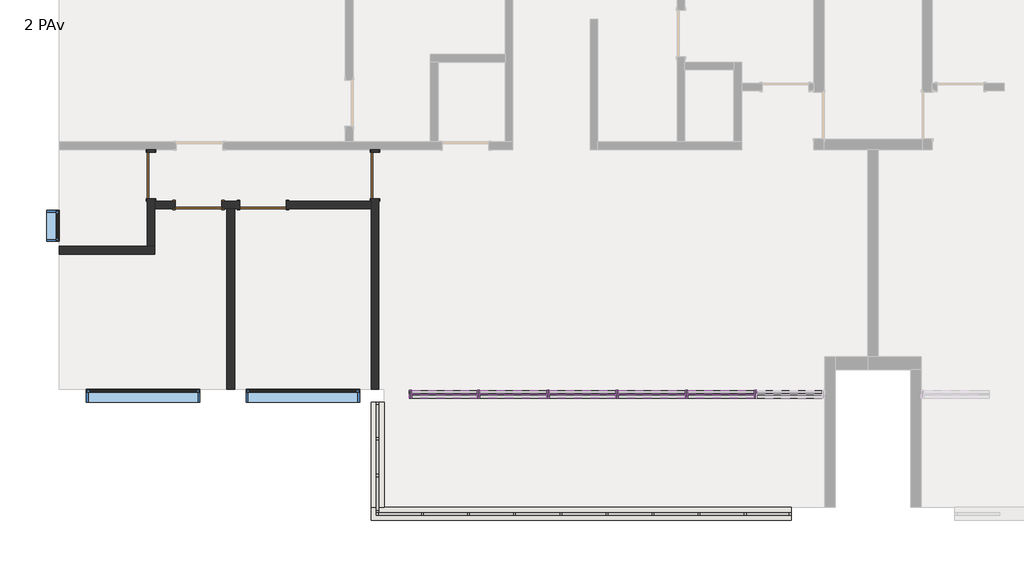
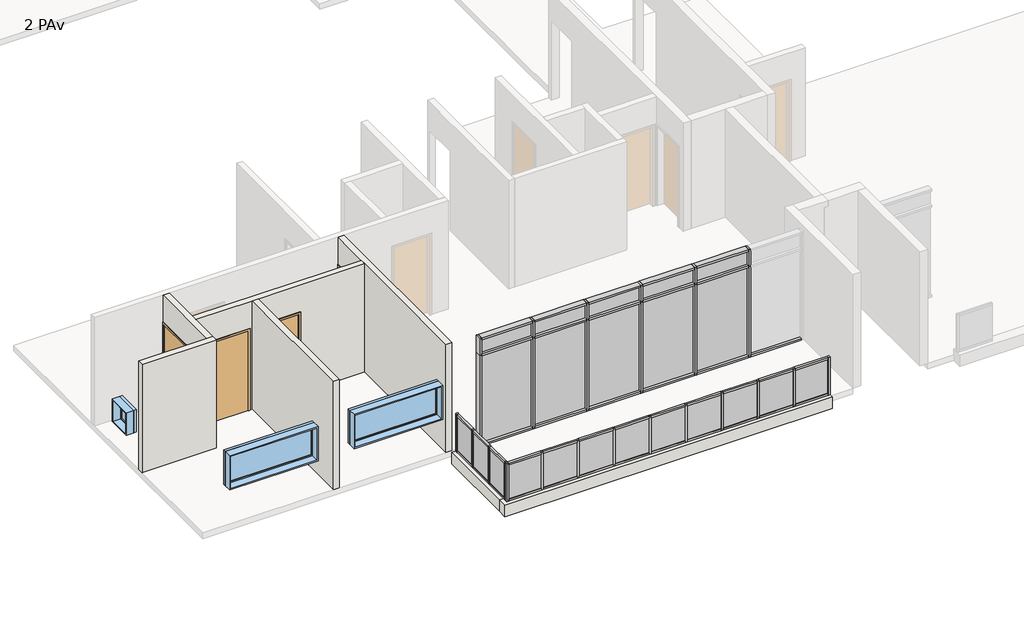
# One storey, part 1 of 6: 66 members, 22 plates, 7 walls, 4 doors, 3 windows.
"""IFC4 building model written with IfcOpenShell, lengths in millimetres."""

from ifc_helpers import new_model, si_unit, frame, origin, place, context, project, spatial, polyline, outline, extrude, faceted_brep, transform, mapped, element, save
from components import door_90_x_210_ee935524, door_90_x_210_565370b3, montante_retangular_50_mm_quadrado_84e40a56, montante_retangular_50_mm_quadrado_3d152aff, montante_retangular_50_mm_quadrado_a01005a4, montante_retangular_50_mm_quadrado_ddd80bd7, montante_retangular_50_mm_quadrado_4acded50, montante_retangular_50_mm_quadrado_237d7072, montante_retangular_50_x_150_mm_6217edde, montante_retangular_50_x_150_mm_a22249d7, montante_retangular_50_x_150_mm_6225e4e3, montante_retangular_50_x_150_mm_567eccab, montante_retangular_50_x_150_mm_1ca2bba2, montante_retangular_50_x_150_mm_6abf4531, montante_retangular_50_x_150_mm_0a8c3443, montante_retangular_50_x_150_mm_662c37b1, painel_do_sistema_0196877a, painel_do_sistema_2aa81470, painel_do_sistema_57ceaf50, painel_do_sistema_ab0ed719, painel_do_sistema_1ecb5f42, painel_do_sistema_49db1829, painel_do_sistema_5ea5287b, painel_do_sistema_7730abee, window_0610_x_0610_mm_da1d4716, window_220_x_90_cea65aae

model = new_model("IFC4")

# Units and contexts
model_context = context("Model", 3, world=origin())
ifc_project = project(units=[si_unit("LENGTHUNIT", "METRE", prefix="MILLI")], contexts=[model_context])

# Site, building, storey
site = spatial("IfcSite", under=ifc_project)
building = spatial("IfcBuilding", under=site)
storey = spatial("IfcBuildingStorey", under=building, Name="2 PAv", Elevation=6000.0)

# Doors
placement = place(None, origin())
door_90_x_210_shape = door_90_x_210_ee935524(model_context)
element("IfcDoor", 1, ObjectType="M_Descarga simples : 90 x 210", at=placement, inside=storey, context=model_context, shape_type="MappedRepresentation", body=[
    mapped(door_90_x_210_shape, transform((-10691.2265742, -8286.3385375, 6000.0), x_axis=(0.0, 1.0, 0.0), y_axis=(-1.0, 0.0, 0.0), z_axis=(0.0, 0.0, 1.0))),
])
element("IfcDoor", 2, ObjectType="M_Descarga simples : 90 x 210", at=placement, inside=storey, context=model_context, shape_type="MappedRepresentation", body=[
    mapped(door_90_x_210_shape, transform((-15041.2265742, -8286.3385375, 6000.0), x_axis=(0.0, 1.0, 0.0), y_axis=(-1.0, 0.0, 0.0), z_axis=(0.0, 0.0, 1.0))),
])
element("IfcDoor", 3, ObjectType="M_Descarga simples : 90 x 210", at=placement, inside=storey, context=model_context, shape_type="MappedRepresentation", body=[
    mapped(door_90_x_210_shape, transform((-12866.2265742, -8861.3385375, 6000.0), x_axis=(-1.0, 0.0, 0.0), y_axis=(0.0, -1.0, 0.0), z_axis=(0.0, 0.0, 1.0))),
])
door_90_x_210_2_shape = door_90_x_210_565370b3(model_context)
element("IfcDoor", 4, ObjectType="M_Descarga simples : 90 x 210", at=placement, inside=storey, context=model_context, shape_type="MappedRepresentation", body=[
    mapped(door_90_x_210_2_shape, transform((-14116.2265742, -8861.3385375, 6000.0), x_axis=(1.0, 0.0, 0.0), y_axis=(0.0, 1.0, 0.0), z_axis=(0.0, 0.0, 1.0))),
])

# Members
montante_retangular_50_mm_quadrado_shape = montante_retangular_50_mm_quadrado_84e40a56(model_context)
element("IfcMember", 5, ObjectType="Montante retangular : 50 mm Quadrado", at=placement, inside=storey, context=model_context, shape_type="MappedRepresentation", body=[
    mapped(montante_retangular_50_mm_quadrado_shape, transform((-3506.2265742, -14856.3385375, 6150.0), x_axis=(-1.0, 0.0, 0.0), y_axis=(0.0, 1.0, 0.0), z_axis=(0.0, 0.0, -1.0))),
])
element("IfcMember", 6, ObjectType="Montante retangular : 50 mm Quadrado", at=placement, inside=storey, context=model_context, shape_type="MappedRepresentation", body=[
    mapped(montante_retangular_50_mm_quadrado_shape, transform((-4401.2265742, -14856.3385375, 6150.0), x_axis=(-1.0, 0.0, 0.0), y_axis=(0.0, 1.0, 0.0), z_axis=(0.0, 0.0, -1.0))),
])
element("IfcMember", 7, ObjectType="Montante retangular : 50 mm Quadrado", at=placement, inside=storey, context=model_context, shape_type="MappedRepresentation", body=[
    mapped(montante_retangular_50_mm_quadrado_shape, transform((-5296.2265742, -14856.3385375, 6150.0), x_axis=(-1.0, 0.0, 0.0), y_axis=(0.0, 1.0, 0.0), z_axis=(0.0, 0.0, -1.0))),
])
element("IfcMember", 8, ObjectType="Montante retangular : 50 mm Quadrado", at=placement, inside=storey, context=model_context, shape_type="MappedRepresentation", body=[
    mapped(montante_retangular_50_mm_quadrado_shape, transform((-6191.2265742, -14856.3385375, 6150.0), x_axis=(-1.0, 0.0, 0.0), y_axis=(0.0, 1.0, 0.0), z_axis=(0.0, 0.0, -1.0))),
])
element("IfcMember", 9, ObjectType="Montante retangular : 50 mm Quadrado", at=placement, inside=storey, context=model_context, shape_type="MappedRepresentation", body=[
    mapped(montante_retangular_50_mm_quadrado_shape, transform((-7086.2265742, -14856.3385375, 6150.0), x_axis=(-1.0, 0.0, 0.0), y_axis=(0.0, 1.0, 0.0), z_axis=(0.0, 0.0, -1.0))),
])
element("IfcMember", 10, ObjectType="Montante retangular : 50 mm Quadrado", at=placement, inside=storey, context=model_context, shape_type="MappedRepresentation", body=[
    mapped(montante_retangular_50_mm_quadrado_shape, transform((-7981.2265742, -14856.3385375, 6150.0), x_axis=(-1.0, 0.0, 0.0), y_axis=(0.0, 1.0, 0.0), z_axis=(0.0, 0.0, -1.0))),
])
element("IfcMember", 11, ObjectType="Montante retangular : 50 mm Quadrado", at=placement, inside=storey, context=model_context, shape_type="MappedRepresentation", body=[
    mapped(montante_retangular_50_mm_quadrado_shape, transform((-8876.2265742, -14856.3385375, 6150.0), x_axis=(-1.0, 0.0, 0.0), y_axis=(0.0, 1.0, 0.0), z_axis=(0.0, 0.0, -1.0))),
])
element("IfcMember", 12, ObjectType="Montante retangular : 50 mm Quadrado", at=placement, inside=storey, context=model_context, shape_type="MappedRepresentation", body=[
    mapped(montante_retangular_50_mm_quadrado_shape, transform((-9771.2265742, -14856.3385375, 6150.0), x_axis=(-1.0, 0.0, 0.0), y_axis=(0.0, 1.0, 0.0), z_axis=(0.0, 0.0, -1.0))),
])
element("IfcMember", 13, ObjectType="Montante retangular : 50 mm Quadrado", at=placement, inside=storey, context=model_context, shape_type="MappedRepresentation", body=[
    mapped(montante_retangular_50_mm_quadrado_shape, transform((-10641.2265742, -14116.3385375, 6150.0), x_axis=(0.0, 1.0, 0.0), y_axis=(1.0, 0.0, 0.0), z_axis=(0.0, 0.0, -1.0))),
])
element("IfcMember", 14, ObjectType="Montante retangular : 50 mm Quadrado", at=placement, inside=storey, context=model_context, shape_type="MappedRepresentation", body=[
    mapped(montante_retangular_50_mm_quadrado_shape, transform((-10641.2265742, -13401.3385375, 6150.0), x_axis=(0.0, 1.0, 0.0), y_axis=(1.0, 0.0, 0.0), z_axis=(0.0, 0.0, -1.0))),
])
montante_retangular_50_mm_quadrado_2_shape = montante_retangular_50_mm_quadrado_3d152aff(model_context)
element("IfcMember", 15, ObjectType="Montante retangular : 50 mm Quadrado", at=placement, inside=storey, context=model_context, shape_type="MappedRepresentation", body=[
    mapped(montante_retangular_50_mm_quadrado_2_shape, transform((-10666.2265742, -14856.3385375, 6150.0), x_axis=(-1.0, 0.0, 0.0), y_axis=(0.0, 1.0, 0.0), z_axis=(0.0, 0.0, -1.0))),
])
element("IfcMember", 16, ObjectType="Montante retangular : 50 mm Quadrado", at=placement, inside=storey, context=model_context, shape_type="MappedRepresentation", body=[
    mapped(montante_retangular_50_mm_quadrado_2_shape, transform((-10641.2265742, -12686.3385375, 6150.0), x_axis=(0.0, 1.0, 0.0), y_axis=(1.0, 0.0, 0.0), z_axis=(0.0, 0.0, -1.0))),
])
element("IfcMember", 17, ObjectType="Montante retangular : 50 mm Quadrado", at=placement, inside=storey, context=model_context, shape_type="MappedRepresentation", body=[
    mapped(montante_retangular_50_mm_quadrado_2_shape, transform((-2611.2265742, -14856.3385375, 7150.0), x_axis=(1.0, 0.0, 0.0), y_axis=(0.0, 1.0, 0.0), z_axis=(0.0, 0.0, 1.0))),
])
element("IfcMember", 18, ObjectType="Montante retangular : 50 mm Quadrado", at=placement, inside=storey, context=model_context, shape_type="MappedRepresentation", body=[
    mapped(montante_retangular_50_mm_quadrado_2_shape, transform((-10641.2265742, -14831.3385375, 7150.0), x_axis=(0.0, -1.0, 0.0), y_axis=(1.0, 0.0, 0.0), z_axis=(0.0, 0.0, 1.0))),
])
montante_retangular_50_mm_quadrado_3_shape = montante_retangular_50_mm_quadrado_a01005a4(model_context)
element("IfcMember", 19, ObjectType="Montante retangular : 50 mm Quadrado", at=placement, inside=storey, context=model_context, shape_type="MappedRepresentation", body=[
    mapped(montante_retangular_50_mm_quadrado_3_shape, transform((-10641.2265742, -12736.3385375, 7150.0), x_axis=(0.0, 0.0, 1.0), y_axis=(1.0, 0.0, 0.0), z_axis=(0.0, 1.0, 0.0))),
])
element("IfcMember", 20, ObjectType="Montante retangular : 50 mm Quadrado", at=placement, inside=storey, context=model_context, shape_type="MappedRepresentation", body=[
    mapped(montante_retangular_50_mm_quadrado_3_shape, transform((-10641.2265742, -14141.3385375, 7150.0), x_axis=(0.0, 0.0, 1.0), y_axis=(1.0, 0.0, 0.0), z_axis=(0.0, 1.0, 0.0))),
])
montante_retangular_50_mm_quadrado_4_shape = montante_retangular_50_mm_quadrado_ddd80bd7(model_context)
element("IfcMember", 21, ObjectType="Montante retangular : 50 mm Quadrado", at=placement, inside=storey, context=model_context, shape_type="MappedRepresentation", body=[
    mapped(montante_retangular_50_mm_quadrado_4_shape, transform((-10641.2265742, -13426.3385375, 7150.0), x_axis=(0.0, 0.0, 1.0), y_axis=(1.0, 0.0, 0.0), z_axis=(0.0, 1.0, 0.0))),
])
element("IfcMember", 22, ObjectType="Montante retangular : 50 mm Quadrado", at=placement, inside=storey, context=model_context, shape_type="MappedRepresentation", body=[
    mapped(montante_retangular_50_mm_quadrado_3_shape, transform((-10641.2265742, -14781.3385375, 6150.0), x_axis=(0.0, 0.0, -1.0), y_axis=(1.0, 0.0, 0.0), z_axis=(0.0, -1.0, 0.0))),
])
element("IfcMember", 23, ObjectType="Montante retangular : 50 mm Quadrado", at=placement, inside=storey, context=model_context, shape_type="MappedRepresentation", body=[
    mapped(montante_retangular_50_mm_quadrado_3_shape, transform((-10641.2265742, -13376.3385375, 6150.0), x_axis=(0.0, 0.0, -1.0), y_axis=(1.0, 0.0, 0.0), z_axis=(0.0, -1.0, 0.0))),
])
element("IfcMember", 24, ObjectType="Montante retangular : 50 mm Quadrado", at=placement, inside=storey, context=model_context, shape_type="MappedRepresentation", body=[
    mapped(montante_retangular_50_mm_quadrado_4_shape, transform((-10641.2265742, -14091.3385375, 6150.0), x_axis=(0.0, 0.0, -1.0), y_axis=(1.0, 0.0, 0.0), z_axis=(0.0, -1.0, 0.0))),
])
montante_retangular_50_mm_quadrado_5_shape = montante_retangular_50_mm_quadrado_4acded50(model_context)
element("IfcMember", 25, ObjectType="Montante retangular : 50 mm Quadrado", at=placement, inside=storey, context=model_context, shape_type="MappedRepresentation", body=[
    mapped(montante_retangular_50_mm_quadrado_5_shape, transform((-10616.2265742, -14856.3385375, 7150.0), x_axis=(0.0, 0.0, 1.0), y_axis=(0.0, 1.0, 0.0), z_axis=(-1.0, 0.0, 0.0))),
])
element("IfcMember", 26, ObjectType="Montante retangular : 50 mm Quadrado", at=placement, inside=storey, context=model_context, shape_type="MappedRepresentation", body=[
    mapped(montante_retangular_50_mm_quadrado_5_shape, transform((-3481.2265742, -14856.3385375, 7150.0), x_axis=(0.0, 0.0, 1.0), y_axis=(0.0, 1.0, 0.0), z_axis=(-1.0, 0.0, 0.0))),
])
montante_retangular_50_mm_quadrado_6_shape = montante_retangular_50_mm_quadrado_237d7072(model_context)
element("IfcMember", 27, ObjectType="Montante retangular : 50 mm Quadrado", at=placement, inside=storey, context=model_context, shape_type="MappedRepresentation", body=[
    mapped(montante_retangular_50_mm_quadrado_6_shape, transform((-4376.2265742, -14856.3385375, 7150.0), x_axis=(0.0, 0.0, 1.0), y_axis=(0.0, 1.0, 0.0), z_axis=(-1.0, 0.0, 0.0))),
])
element("IfcMember", 28, ObjectType="Montante retangular : 50 mm Quadrado", at=placement, inside=storey, context=model_context, shape_type="MappedRepresentation", body=[
    mapped(montante_retangular_50_mm_quadrado_6_shape, transform((-5271.2265742, -14856.3385375, 7150.0), x_axis=(0.0, 0.0, 1.0), y_axis=(0.0, 1.0, 0.0), z_axis=(-1.0, 0.0, 0.0))),
])
element("IfcMember", 29, ObjectType="Montante retangular : 50 mm Quadrado", at=placement, inside=storey, context=model_context, shape_type="MappedRepresentation", body=[
    mapped(montante_retangular_50_mm_quadrado_6_shape, transform((-6166.2265742, -14856.3385375, 7150.0), x_axis=(0.0, 0.0, 1.0), y_axis=(0.0, 1.0, 0.0), z_axis=(-1.0, 0.0, 0.0))),
])
element("IfcMember", 30, ObjectType="Montante retangular : 50 mm Quadrado", at=placement, inside=storey, context=model_context, shape_type="MappedRepresentation", body=[
    mapped(montante_retangular_50_mm_quadrado_6_shape, transform((-7061.2265742, -14856.3385375, 7150.0), x_axis=(0.0, 0.0, 1.0), y_axis=(0.0, 1.0, 0.0), z_axis=(-1.0, 0.0, 0.0))),
])
element("IfcMember", 31, ObjectType="Montante retangular : 50 mm Quadrado", at=placement, inside=storey, context=model_context, shape_type="MappedRepresentation", body=[
    mapped(montante_retangular_50_mm_quadrado_6_shape, transform((-7956.2265742, -14856.3385375, 7150.0), x_axis=(0.0, 0.0, 1.0), y_axis=(0.0, 1.0, 0.0), z_axis=(-1.0, 0.0, 0.0))),
])
element("IfcMember", 32, ObjectType="Montante retangular : 50 mm Quadrado", at=placement, inside=storey, context=model_context, shape_type="MappedRepresentation", body=[
    mapped(montante_retangular_50_mm_quadrado_6_shape, transform((-8851.2265742, -14856.3385375, 7150.0), x_axis=(0.0, 0.0, 1.0), y_axis=(0.0, 1.0, 0.0), z_axis=(-1.0, 0.0, 0.0))),
])
element("IfcMember", 33, ObjectType="Montante retangular : 50 mm Quadrado", at=placement, inside=storey, context=model_context, shape_type="MappedRepresentation", body=[
    mapped(montante_retangular_50_mm_quadrado_6_shape, transform((-9746.2265742, -14856.3385375, 7150.0), x_axis=(0.0, 0.0, 1.0), y_axis=(0.0, 1.0, 0.0), z_axis=(-1.0, 0.0, 0.0))),
])
element("IfcMember", 34, ObjectType="Montante retangular : 50 mm Quadrado", at=placement, inside=storey, context=model_context, shape_type="MappedRepresentation", body=[
    mapped(montante_retangular_50_mm_quadrado_5_shape, transform((-2661.2265742, -14856.3385375, 6150.0), x_axis=(0.0, 0.0, -1.0), y_axis=(0.0, 1.0, 0.0), z_axis=(1.0, 0.0, 0.0))),
])
element("IfcMember", 35, ObjectType="Montante retangular : 50 mm Quadrado", at=placement, inside=storey, context=model_context, shape_type="MappedRepresentation", body=[
    mapped(montante_retangular_50_mm_quadrado_5_shape, transform((-9796.2265742, -14856.3385375, 6150.0), x_axis=(0.0, 0.0, -1.0), y_axis=(0.0, 1.0, 0.0), z_axis=(1.0, 0.0, 0.0))),
])
element("IfcMember", 36, ObjectType="Montante retangular : 50 mm Quadrado", at=placement, inside=storey, context=model_context, shape_type="MappedRepresentation", body=[
    mapped(montante_retangular_50_mm_quadrado_6_shape, transform((-3531.2265742, -14856.3385375, 6150.0), x_axis=(0.0, 0.0, -1.0), y_axis=(0.0, 1.0, 0.0), z_axis=(1.0, 0.0, 0.0))),
])
element("IfcMember", 37, ObjectType="Montante retangular : 50 mm Quadrado", at=placement, inside=storey, context=model_context, shape_type="MappedRepresentation", body=[
    mapped(montante_retangular_50_mm_quadrado_6_shape, transform((-4426.2265742, -14856.3385375, 6150.0), x_axis=(0.0, 0.0, -1.0), y_axis=(0.0, 1.0, 0.0), z_axis=(1.0, 0.0, 0.0))),
])
element("IfcMember", 38, ObjectType="Montante retangular : 50 mm Quadrado", at=placement, inside=storey, context=model_context, shape_type="MappedRepresentation", body=[
    mapped(montante_retangular_50_mm_quadrado_6_shape, transform((-5321.2265742, -14856.3385375, 6150.0), x_axis=(0.0, 0.0, -1.0), y_axis=(0.0, 1.0, 0.0), z_axis=(1.0, 0.0, 0.0))),
])
element("IfcMember", 39, ObjectType="Montante retangular : 50 mm Quadrado", at=placement, inside=storey, context=model_context, shape_type="MappedRepresentation", body=[
    mapped(montante_retangular_50_mm_quadrado_6_shape, transform((-6216.2265742, -14856.3385375, 6150.0), x_axis=(0.0, 0.0, -1.0), y_axis=(0.0, 1.0, 0.0), z_axis=(1.0, 0.0, 0.0))),
])
element("IfcMember", 40, ObjectType="Montante retangular : 50 mm Quadrado", at=placement, inside=storey, context=model_context, shape_type="MappedRepresentation", body=[
    mapped(montante_retangular_50_mm_quadrado_6_shape, transform((-7111.2265742, -14856.3385375, 6150.0), x_axis=(0.0, 0.0, -1.0), y_axis=(0.0, 1.0, 0.0), z_axis=(1.0, 0.0, 0.0))),
])
element("IfcMember", 41, ObjectType="Montante retangular : 50 mm Quadrado", at=placement, inside=storey, context=model_context, shape_type="MappedRepresentation", body=[
    mapped(montante_retangular_50_mm_quadrado_6_shape, transform((-8006.2265742, -14856.3385375, 6150.0), x_axis=(0.0, 0.0, -1.0), y_axis=(0.0, 1.0, 0.0), z_axis=(1.0, 0.0, 0.0))),
])
element("IfcMember", 42, ObjectType="Montante retangular : 50 mm Quadrado", at=placement, inside=storey, context=model_context, shape_type="MappedRepresentation", body=[
    mapped(montante_retangular_50_mm_quadrado_6_shape, transform((-8901.2265742, -14856.3385375, 6150.0), x_axis=(0.0, 0.0, -1.0), y_axis=(0.0, 1.0, 0.0), z_axis=(1.0, 0.0, 0.0))),
])
montante_retangular_50_x_150_mm_shape = montante_retangular_50_x_150_mm_6217edde(model_context)
element("IfcMember", 43, ObjectType="Montante retangular : 50 x 150 mm", at=placement, inside=storey, context=model_context, shape_type="MappedRepresentation", body=[
    mapped(montante_retangular_50_x_150_mm_shape, transform((-8707.0599075, -12536.3385375, 8850.0), x_axis=(0.0, 0.0, 1.0), y_axis=(0.0, -1.0, 0.0), z_axis=(1.0, 0.0, 0.0))),
])
montante_retangular_50_x_150_mm_2_shape = montante_retangular_50_x_150_mm_a22249d7(model_context)
element("IfcMember", 44, ObjectType="Montante retangular : 50 x 150 mm", at=placement, inside=storey, context=model_context, shape_type="MappedRepresentation", body=[
    mapped(montante_retangular_50_x_150_mm_2_shape, transform((-7362.8932408, -12536.3385375, 8850.0), x_axis=(0.0, 0.0, 1.0), y_axis=(0.0, -1.0, 0.0), z_axis=(1.0, 0.0, 0.0))),
])
element("IfcMember", 45, ObjectType="Montante retangular : 50 x 150 mm", at=placement, inside=storey, context=model_context, shape_type="MappedRepresentation", body=[
    mapped(montante_retangular_50_x_150_mm_2_shape, transform((-6018.7265742, -12536.3385375, 8850.0), x_axis=(0.0, 0.0, 1.0), y_axis=(0.0, -1.0, 0.0), z_axis=(1.0, 0.0, 0.0))),
])
element("IfcMember", 46, ObjectType="Montante retangular : 50 x 150 mm", at=placement, inside=storey, context=model_context, shape_type="MappedRepresentation", body=[
    mapped(montante_retangular_50_x_150_mm_2_shape, transform((-4674.5599075, -12536.3385375, 8850.0), x_axis=(0.0, 0.0, 1.0), y_axis=(0.0, -1.0, 0.0), z_axis=(1.0, 0.0, 0.0))),
])
element("IfcMember", 47, ObjectType="Montante retangular : 50 x 150 mm", at=placement, inside=storey, context=model_context, shape_type="MappedRepresentation", body=[
    mapped(montante_retangular_50_x_150_mm_2_shape, transform((-3330.3932408, -12536.3385375, 8850.0), x_axis=(0.0, 0.0, 1.0), y_axis=(0.0, -1.0, 0.0), z_axis=(1.0, 0.0, 0.0))),
])
element("IfcMember", 48, ObjectType="Montante retangular : 50 x 150 mm", at=placement, inside=storey, context=model_context, shape_type="MappedRepresentation", body=[
    mapped(montante_retangular_50_x_150_mm_shape, transform((-9976.2265742, -12536.3385375, 6000.0), x_axis=(0.0, 0.0, -1.0), y_axis=(0.0, -1.0, 0.0), z_axis=(-1.0, 0.0, 0.0))),
])
element("IfcMember", 49, ObjectType="Montante retangular : 50 x 150 mm", at=placement, inside=storey, context=model_context, shape_type="MappedRepresentation", body=[
    mapped(montante_retangular_50_x_150_mm_shape, transform((-3280.3932408, -12536.3385375, 6000.0), x_axis=(0.0, 0.0, -1.0), y_axis=(0.0, -1.0, 0.0), z_axis=(-1.0, 0.0, 0.0))),
])
element("IfcMember", 50, ObjectType="Montante retangular : 50 x 150 mm", at=placement, inside=storey, context=model_context, shape_type="MappedRepresentation", body=[
    mapped(montante_retangular_50_x_150_mm_2_shape, transform((-8657.0599075, -12536.3385375, 6000.0), x_axis=(0.0, 0.0, -1.0), y_axis=(0.0, -1.0, 0.0), z_axis=(-1.0, 0.0, 0.0))),
])
element("IfcMember", 51, ObjectType="Montante retangular : 50 x 150 mm", at=placement, inside=storey, context=model_context, shape_type="MappedRepresentation", body=[
    mapped(montante_retangular_50_x_150_mm_2_shape, transform((-7312.8932408, -12536.3385375, 6000.0), x_axis=(0.0, 0.0, -1.0), y_axis=(0.0, -1.0, 0.0), z_axis=(-1.0, 0.0, 0.0))),
])
element("IfcMember", 52, ObjectType="Montante retangular : 50 x 150 mm", at=placement, inside=storey, context=model_context, shape_type="MappedRepresentation", body=[
    mapped(montante_retangular_50_x_150_mm_2_shape, transform((-5968.7265742, -12536.3385375, 6000.0), x_axis=(0.0, 0.0, -1.0), y_axis=(0.0, -1.0, 0.0), z_axis=(-1.0, 0.0, 0.0))),
])
element("IfcMember", 53, ObjectType="Montante retangular : 50 x 150 mm", at=placement, inside=storey, context=model_context, shape_type="MappedRepresentation", body=[
    mapped(montante_retangular_50_x_150_mm_2_shape, transform((-4624.5599075, -12536.3385375, 6000.0), x_axis=(0.0, 0.0, -1.0), y_axis=(0.0, -1.0, 0.0), z_axis=(-1.0, 0.0, 0.0))),
])
montante_retangular_50_x_150_mm_3_shape = montante_retangular_50_x_150_mm_6225e4e3(model_context)
element("IfcMember", 54, ObjectType="Montante retangular : 50 x 150 mm", at=placement, inside=storey, context=model_context, shape_type="MappedRepresentation", body=[
    mapped(montante_retangular_50_x_150_mm_3_shape, transform((-8682.0599075, -12536.3385375, 6000.0), x_axis=(1.0, 0.0, 0.0), y_axis=(0.0, -1.0, 0.0), z_axis=(0.0, 0.0, -1.0))),
])
element("IfcMember", 55, ObjectType="Montante retangular : 50 x 150 mm", at=placement, inside=storey, context=model_context, shape_type="MappedRepresentation", body=[
    mapped(montante_retangular_50_x_150_mm_3_shape, transform((-7337.8932408, -12536.3385375, 6000.0), x_axis=(1.0, 0.0, 0.0), y_axis=(0.0, -1.0, 0.0), z_axis=(0.0, 0.0, -1.0))),
])
element("IfcMember", 56, ObjectType="Montante retangular : 50 x 150 mm", at=placement, inside=storey, context=model_context, shape_type="MappedRepresentation", body=[
    mapped(montante_retangular_50_x_150_mm_3_shape, transform((-5993.7265742, -12536.3385375, 6000.0), x_axis=(1.0, 0.0, 0.0), y_axis=(0.0, -1.0, 0.0), z_axis=(0.0, 0.0, -1.0))),
])
element("IfcMember", 57, ObjectType="Montante retangular : 50 x 150 mm", at=placement, inside=storey, context=model_context, shape_type="MappedRepresentation", body=[
    mapped(montante_retangular_50_x_150_mm_3_shape, transform((-4649.5599075, -12536.3385375, 6000.0), x_axis=(1.0, 0.0, 0.0), y_axis=(0.0, -1.0, 0.0), z_axis=(0.0, 0.0, -1.0))),
])
element("IfcMember", 58, ObjectType="Montante retangular : 50 x 150 mm", at=placement, inside=storey, context=model_context, shape_type="MappedRepresentation", body=[
    mapped(montante_retangular_50_x_150_mm_3_shape, transform((-3305.3932408, -12536.3385375, 6000.0), x_axis=(1.0, 0.0, 0.0), y_axis=(0.0, -1.0, 0.0), z_axis=(0.0, 0.0, -1.0))),
])
montante_retangular_50_x_150_mm_4_shape = montante_retangular_50_x_150_mm_567eccab(model_context)
element("IfcMember", 59, ObjectType="Montante retangular : 50 x 150 mm", at=placement, inside=storey, context=model_context, shape_type="MappedRepresentation", body=[
    mapped(montante_retangular_50_x_150_mm_4_shape, transform((-8682.0599075, -12536.3385375, 8400.0), x_axis=(1.0, 0.0, 0.0), y_axis=(0.0, -1.0, 0.0), z_axis=(0.0, 0.0, -1.0))),
])
element("IfcMember", 60, ObjectType="Montante retangular : 50 x 150 mm", at=placement, inside=storey, context=model_context, shape_type="MappedRepresentation", body=[
    mapped(montante_retangular_50_x_150_mm_4_shape, transform((-7337.8932408, -12536.3385375, 8400.0), x_axis=(1.0, 0.0, 0.0), y_axis=(0.0, -1.0, 0.0), z_axis=(0.0, 0.0, -1.0))),
])
element("IfcMember", 61, ObjectType="Montante retangular : 50 x 150 mm", at=placement, inside=storey, context=model_context, shape_type="MappedRepresentation", body=[
    mapped(montante_retangular_50_x_150_mm_4_shape, transform((-5993.7265742, -12536.3385375, 8400.0), x_axis=(1.0, 0.0, 0.0), y_axis=(0.0, -1.0, 0.0), z_axis=(0.0, 0.0, -1.0))),
])
element("IfcMember", 62, ObjectType="Montante retangular : 50 x 150 mm", at=placement, inside=storey, context=model_context, shape_type="MappedRepresentation", body=[
    mapped(montante_retangular_50_x_150_mm_4_shape, transform((-4649.5599075, -12536.3385375, 8400.0), x_axis=(1.0, 0.0, 0.0), y_axis=(0.0, -1.0, 0.0), z_axis=(0.0, 0.0, -1.0))),
])
element("IfcMember", 63, ObjectType="Montante retangular : 50 x 150 mm", at=placement, inside=storey, context=model_context, shape_type="MappedRepresentation", body=[
    mapped(montante_retangular_50_x_150_mm_4_shape, transform((-3305.3932408, -12536.3385375, 8400.0), x_axis=(1.0, 0.0, 0.0), y_axis=(0.0, -1.0, 0.0), z_axis=(0.0, 0.0, -1.0))),
])
montante_retangular_50_x_150_mm_5_shape = montante_retangular_50_x_150_mm_1ca2bba2(model_context)
element("IfcMember", 64, ObjectType="Montante retangular : 50 x 150 mm", at=placement, inside=storey, context=model_context, shape_type="MappedRepresentation", body=[
    mapped(montante_retangular_50_x_150_mm_5_shape, transform((-8707.0599075, -12536.3385375, 8400.0), x_axis=(0.0, 0.0, 1.0), y_axis=(0.0, -1.0, 0.0), z_axis=(1.0, 0.0, 0.0))),
])
montante_retangular_50_x_150_mm_6_shape = montante_retangular_50_x_150_mm_6abf4531(model_context)
element("IfcMember", 65, ObjectType="Montante retangular : 50 x 150 mm", at=placement, inside=storey, context=model_context, shape_type="MappedRepresentation", body=[
    mapped(montante_retangular_50_x_150_mm_6_shape, transform((-7362.8932408, -12536.3385375, 8400.0), x_axis=(0.0, 0.0, 1.0), y_axis=(0.0, -1.0, 0.0), z_axis=(1.0, 0.0, 0.0))),
])
element("IfcMember", 66, ObjectType="Montante retangular : 50 x 150 mm", at=placement, inside=storey, context=model_context, shape_type="MappedRepresentation", body=[
    mapped(montante_retangular_50_x_150_mm_6_shape, transform((-6018.7265742, -12536.3385375, 8400.0), x_axis=(0.0, 0.0, 1.0), y_axis=(0.0, -1.0, 0.0), z_axis=(1.0, 0.0, 0.0))),
])
element("IfcMember", 67, ObjectType="Montante retangular : 50 x 150 mm", at=placement, inside=storey, context=model_context, shape_type="MappedRepresentation", body=[
    mapped(montante_retangular_50_x_150_mm_6_shape, transform((-4674.5599075, -12536.3385375, 8400.0), x_axis=(0.0, 0.0, 1.0), y_axis=(0.0, -1.0, 0.0), z_axis=(1.0, 0.0, 0.0))),
])
element("IfcMember", 68, ObjectType="Montante retangular : 50 x 150 mm", at=placement, inside=storey, context=model_context, shape_type="MappedRepresentation", body=[
    mapped(montante_retangular_50_x_150_mm_6_shape, transform((-3330.3932408, -12536.3385375, 8400.0), x_axis=(0.0, 0.0, 1.0), y_axis=(0.0, -1.0, 0.0), z_axis=(1.0, 0.0, 0.0))),
])
montante_retangular_50_x_150_mm_7_shape = montante_retangular_50_x_150_mm_0a8c3443(model_context)
element("IfcMember", 69, ObjectType="Montante retangular : 50 x 150 mm", at=placement, inside=storey, context=model_context, shape_type="MappedRepresentation", body=[
    mapped(montante_retangular_50_x_150_mm_7_shape, transform((-10026.2265742, -12536.3385375, 8850.0), x_axis=(-1.0, 0.0, 0.0), y_axis=(0.0, -1.0, 0.0), z_axis=(0.0, 0.0, 1.0))),
])
montante_retangular_50_x_150_mm_8_shape = montante_retangular_50_x_150_mm_662c37b1(model_context)
element("IfcMember", 70, ObjectType="Montante retangular : 50 x 150 mm", at=placement, inside=storey, context=model_context, shape_type="MappedRepresentation", body=[
    mapped(montante_retangular_50_x_150_mm_8_shape, transform((-10026.2265742, -12536.3385375, 8400.0), x_axis=(-1.0, 0.0, 0.0), y_axis=(0.0, -1.0, 0.0), z_axis=(0.0, 0.0, 1.0))),
])

# Plates
painel_do_sistema_shape = painel_do_sistema_0196877a(model_context)
element("IfcPlate", 71, ObjectType="Painel do sistema : Envidraçado", at=placement, inside=storey, context=model_context, shape_type="MappedRepresentation", body=[
    mapped(painel_do_sistema_shape, transform((-10641.2265742, -14461.3385375, 6200.0), x_axis=(0.0, 1.0, 0.0), y_axis=(-1.0, 0.0, 0.0), z_axis=(0.0, 0.0, 1.0))),
])
element("IfcPlate", 72, ObjectType="Painel do sistema : Envidraçado", at=placement, inside=storey, context=model_context, shape_type="MappedRepresentation", body=[
    mapped(painel_do_sistema_shape, transform((-10641.2265742, -13056.3385375, 6200.0), x_axis=(0.0, 1.0, 0.0), y_axis=(-1.0, 0.0, 0.0), z_axis=(0.0, 0.0, 1.0))),
])
painel_do_sistema_2_shape = painel_do_sistema_2aa81470(model_context)
element("IfcPlate", 73, ObjectType="Painel do sistema : Envidraçado", at=placement, inside=storey, context=model_context, shape_type="MappedRepresentation", body=[
    mapped(painel_do_sistema_2_shape, transform((-10641.2265742, -13758.8385375, 6200.0), x_axis=(0.0, 1.0, 0.0), y_axis=(-1.0, 0.0, 0.0), z_axis=(0.0, 0.0, 1.0))),
])
painel_do_sistema_3_shape = painel_do_sistema_57ceaf50(model_context)
element("IfcPlate", 74, ObjectType="Painel do sistema : Envidraçado", at=placement, inside=storey, context=model_context, shape_type="MappedRepresentation", body=[
    mapped(painel_do_sistema_3_shape, transform((-3071.2265742, -14856.3385375, 6200.0), x_axis=(-1.0, 0.0, 0.0), y_axis=(0.0, -1.0, 0.0), z_axis=(0.0, 0.0, 1.0))),
])
element("IfcPlate", 75, ObjectType="Painel do sistema : Envidraçado", at=placement, inside=storey, context=model_context, shape_type="MappedRepresentation", body=[
    mapped(painel_do_sistema_3_shape, transform((-10206.2265742, -14856.3385375, 6200.0), x_axis=(-1.0, 0.0, 0.0), y_axis=(0.0, -1.0, 0.0), z_axis=(0.0, 0.0, 1.0))),
])
painel_do_sistema_4_shape = painel_do_sistema_ab0ed719(model_context)
element("IfcPlate", 76, ObjectType="Painel do sistema : Envidraçado", at=placement, inside=storey, context=model_context, shape_type="MappedRepresentation", body=[
    mapped(painel_do_sistema_4_shape, transform((-3953.7265742, -14856.3385375, 6200.0), x_axis=(-1.0, 0.0, 0.0), y_axis=(0.0, -1.0, 0.0), z_axis=(0.0, 0.0, 1.0))),
])
element("IfcPlate", 77, ObjectType="Painel do sistema : Envidraçado", at=placement, inside=storey, context=model_context, shape_type="MappedRepresentation", body=[
    mapped(painel_do_sistema_4_shape, transform((-4848.7265742, -14856.3385375, 6200.0), x_axis=(-1.0, 0.0, 0.0), y_axis=(0.0, -1.0, 0.0), z_axis=(0.0, 0.0, 1.0))),
])
element("IfcPlate", 78, ObjectType="Painel do sistema : Envidraçado", at=placement, inside=storey, context=model_context, shape_type="MappedRepresentation", body=[
    mapped(painel_do_sistema_4_shape, transform((-5743.7265742, -14856.3385375, 6200.0), x_axis=(-1.0, 0.0, 0.0), y_axis=(0.0, -1.0, 0.0), z_axis=(0.0, 0.0, 1.0))),
])
element("IfcPlate", 79, ObjectType="Painel do sistema : Envidraçado", at=placement, inside=storey, context=model_context, shape_type="MappedRepresentation", body=[
    mapped(painel_do_sistema_4_shape, transform((-6638.7265742, -14856.3385375, 6200.0), x_axis=(-1.0, 0.0, 0.0), y_axis=(0.0, -1.0, 0.0), z_axis=(0.0, 0.0, 1.0))),
])
element("IfcPlate", 80, ObjectType="Painel do sistema : Envidraçado", at=placement, inside=storey, context=model_context, shape_type="MappedRepresentation", body=[
    mapped(painel_do_sistema_4_shape, transform((-7533.7265742, -14856.3385375, 6200.0), x_axis=(-1.0, 0.0, 0.0), y_axis=(0.0, -1.0, 0.0), z_axis=(0.0, 0.0, 1.0))),
])
element("IfcPlate", 81, ObjectType="Painel do sistema : Envidraçado", at=placement, inside=storey, context=model_context, shape_type="MappedRepresentation", body=[
    mapped(painel_do_sistema_4_shape, transform((-8428.7265742, -14856.3385375, 6200.0), x_axis=(-1.0, 0.0, 0.0), y_axis=(0.0, -1.0, 0.0), z_axis=(0.0, 0.0, 1.0))),
])
element("IfcPlate", 82, ObjectType="Painel do sistema : Envidraçado", at=placement, inside=storey, context=model_context, shape_type="MappedRepresentation", body=[
    mapped(painel_do_sistema_4_shape, transform((-9323.7265742, -14856.3385375, 6200.0), x_axis=(-1.0, 0.0, 0.0), y_axis=(0.0, -1.0, 0.0), z_axis=(0.0, 0.0, 1.0))),
])
painel_do_sistema_5_shape = painel_do_sistema_1ecb5f42(model_context)
element("IfcPlate", 83, ObjectType="Painel do sistema : Envidraçado", at=placement, inside=storey, context=model_context, shape_type="MappedRepresentation", body=[
    mapped(painel_do_sistema_5_shape, transform((-9341.6432408, -12536.3385375, 6050.0), x_axis=(1.0, 0.0, 0.0), y_axis=(0.0, 1.0, 0.0), z_axis=(0.0, 0.0, 1.0))),
])
painel_do_sistema_6_shape = painel_do_sistema_49db1829(model_context)
element("IfcPlate", 84, ObjectType="Painel do sistema : Envidraçado", at=placement, inside=storey, context=model_context, shape_type="MappedRepresentation", body=[
    mapped(painel_do_sistema_6_shape, transform((-8009.9765742, -12536.3385375, 6050.0), x_axis=(1.0, 0.0, 0.0), y_axis=(0.0, 1.0, 0.0), z_axis=(0.0, 0.0, 1.0))),
])
element("IfcPlate", 85, ObjectType="Painel do sistema : Envidraçado", at=placement, inside=storey, context=model_context, shape_type="MappedRepresentation", body=[
    mapped(painel_do_sistema_6_shape, transform((-6665.8099075, -12536.3385375, 6050.0), x_axis=(1.0, 0.0, 0.0), y_axis=(0.0, 1.0, 0.0), z_axis=(0.0, 0.0, 1.0))),
])
element("IfcPlate", 86, ObjectType="Painel do sistema : Envidraçado", at=placement, inside=storey, context=model_context, shape_type="MappedRepresentation", body=[
    mapped(painel_do_sistema_6_shape, transform((-5321.6432408, -12536.3385375, 6050.0), x_axis=(1.0, 0.0, 0.0), y_axis=(0.0, 1.0, 0.0), z_axis=(0.0, 0.0, 1.0))),
])
element("IfcPlate", 87, ObjectType="Painel do sistema : Envidraçado", at=placement, inside=storey, context=model_context, shape_type="MappedRepresentation", body=[
    mapped(painel_do_sistema_6_shape, transform((-3977.4765742, -12536.3385375, 6050.0), x_axis=(1.0, 0.0, 0.0), y_axis=(0.0, 1.0, 0.0), z_axis=(0.0, 0.0, 1.0))),
])
painel_do_sistema_7_shape = painel_do_sistema_5ea5287b(model_context)
element("IfcPlate", 88, ObjectType="Painel do sistema : Envidraçado", at=placement, inside=storey, context=model_context, shape_type="MappedRepresentation", body=[
    mapped(painel_do_sistema_7_shape, transform((-9341.6432408, -12536.3385375, 8425.0), x_axis=(1.0, 0.0, 0.0), y_axis=(0.0, 1.0, 0.0), z_axis=(0.0, 0.0, 1.0))),
])
painel_do_sistema_8_shape = painel_do_sistema_7730abee(model_context)
element("IfcPlate", 89, ObjectType="Painel do sistema : Envidraçado", at=placement, inside=storey, context=model_context, shape_type="MappedRepresentation", body=[
    mapped(painel_do_sistema_8_shape, transform((-8009.9765742, -12536.3385375, 8425.0), x_axis=(1.0, 0.0, 0.0), y_axis=(0.0, 1.0, 0.0), z_axis=(0.0, 0.0, 1.0))),
])
element("IfcPlate", 90, ObjectType="Painel do sistema : Envidraçado", at=placement, inside=storey, context=model_context, shape_type="MappedRepresentation", body=[
    mapped(painel_do_sistema_8_shape, transform((-6665.8099075, -12536.3385375, 8425.0), x_axis=(1.0, 0.0, 0.0), y_axis=(0.0, 1.0, 0.0), z_axis=(0.0, 0.0, 1.0))),
])
element("IfcPlate", 91, ObjectType="Painel do sistema : Envidraçado", at=placement, inside=storey, context=model_context, shape_type="MappedRepresentation", body=[
    mapped(painel_do_sistema_8_shape, transform((-5321.6432408, -12536.3385375, 8425.0), x_axis=(1.0, 0.0, 0.0), y_axis=(0.0, 1.0, 0.0), z_axis=(0.0, 0.0, 1.0))),
])
element("IfcPlate", 92, ObjectType="Painel do sistema : Envidraçado", at=placement, inside=storey, context=model_context, shape_type="MappedRepresentation", body=[
    mapped(painel_do_sistema_8_shape, transform((-3977.4765742, -12536.3385375, 8425.0), x_axis=(1.0, 0.0, 0.0), y_axis=(0.0, 1.0, 0.0), z_axis=(0.0, 0.0, 1.0))),
])

# Walls
element("IfcWall", 93, ObjectType="Exeterna 25", at=placement, inside=storey, context=model_context, shape_type="Brep", body=[
    faceted_brep([(-2611.2265742, -14731.3385375, 5850.0), (-10516.2265742, -14731.3385375, 5850.0), (-10766.2265742, -14731.3385375, 5850.0), (-10766.2265742, -14731.3385375, 6150.0), (-10516.2265742, -14731.3385375, 6150.0), (-2611.2265742, -14731.3385375, 6150.0), (-2611.2265742, -14981.3385375, 5850.0), (-2611.2265742, -14981.3385375, 6150.0), (-10766.2265742, -14981.3385375, 6150.0), (-10766.2265742, -14981.3385375, 5850.0)], [[[0, 1, 2, 3, 4, 5]], [[6, 7, 8, 9]], [[2, 1, 0, 6, 9]], [[5, 4, 3, 8, 7]], [[0, 5, 7, 6]], [[3, 2, 9, 8]]]),
])
element("IfcWall", 94, ObjectType="Exeterna 25", at=placement, inside=storey, context=model_context, shape_type="SweptSolid", body=[
    extrude(outline(polyline([(-10516.2265742, -12686.3385375), (-10516.2265742, -14731.3385375), (-10766.2265742, -14731.3385375), (-10766.2265742, -12686.3385375), (-10516.2265742, -12686.3385375)])), frame((0.0, 0.0, 5850.0), z_axis=(0.0, 0.0, 1.0), x_axis=(1.0, 0.0, 0.0)), (0.0, 0.0, 1.0), 300.0),
])
element("IfcWall", 95, ObjectType="Interna 15", at=placement, inside=storey, context=model_context, shape_type="Brep", body=[
    faceted_brep([(-10616.2265742, -7836.3385375, 8100.0), (-10616.2265742, -7836.3385375, 6000.0), (-10616.2265742, -7786.3385375, 6000.0), (-10616.2265742, -7786.3385375, 8850.0), (-10616.2265742, -12436.3385375, 8850.0), (-10616.2265742, -12436.3385375, 6000.0), (-10616.2265742, -8736.3385375, 6000.0), (-10616.2265742, -8736.3385375, 8100.0), (-10766.2265742, -7786.3385375, 6000.0), (-10766.2265742, -7836.3385375, 6000.0), (-10766.2265742, -7836.3385375, 8100.0), (-10766.2265742, -8736.3385375, 8100.0), (-10766.2265742, -8736.3385375, 6000.0), (-10766.2265742, -8786.3385375, 6000.0), (-10766.2265742, -8936.3385375, 6000.0), (-10766.2265742, -12436.3385375, 6000.0), (-10766.2265742, -12436.3385375, 8850.0), (-10766.2265742, -8936.3385375, 8850.0), (-10766.2265742, -8786.3385375, 8850.0), (-10766.2265742, -7786.3385375, 8850.0)], [[[0, 1, 2, 3, 4, 5, 6, 7]], [[8, 9, 10, 11, 12, 13, 14, 15, 16, 17, 18, 19]], [[6, 5, 15, 14, 13, 12]], [[2, 1, 9, 8]], [[4, 3, 19, 18, 17, 16]], [[3, 2, 8, 19]], [[10, 9, 1, 0]], [[11, 10, 0, 7]], [[12, 11, 7, 6]], [[5, 4, 16, 15]]]),
])
element("IfcWall", 96, ObjectType="Interna 15", at=placement, inside=storey, context=model_context, shape_type="Brep", body=[
    faceted_brep([(-13316.2265742, -8786.3385375, 6000.0), (-13666.2265742, -8786.3385375, 6000.0), (-13666.2265742, -8786.3385375, 8100.0), (-14566.2265742, -8786.3385375, 8100.0), (-14566.2265742, -8786.3385375, 6000.0), (-14966.2265742, -8786.3385375, 6000.0), (-14966.2265742, -8786.3385375, 8850.0), (-10766.2265742, -8786.3385375, 8850.0), (-10766.2265742, -8786.3385375, 6000.0), (-12416.2265742, -8786.3385375, 6000.0), (-12416.2265742, -8786.3385375, 8100.0), (-13316.2265742, -8786.3385375, 8100.0), (-13666.2265742, -8936.3385375, 8100.0), (-13666.2265742, -8936.3385375, 6000.0), (-13566.2265742, -8936.3385375, 6000.0), (-13416.2265742, -8936.3385375, 6000.0), (-13316.2265742, -8936.3385375, 6000.0), (-13316.2265742, -8936.3385375, 8100.0), (-12416.2265742, -8936.3385375, 8100.0), (-12416.2265742, -8936.3385375, 6000.0), (-10766.2265742, -8936.3385375, 6000.0), (-10766.2265742, -8936.3385375, 8850.0), (-13416.2265742, -8936.3385375, 8850.0), (-13566.2265742, -8936.3385375, 8850.0), (-14966.2265742, -8936.3385375, 8850.0), (-14966.2265742, -8936.3385375, 6000.0), (-14566.2265742, -8936.3385375, 6000.0), (-14566.2265742, -8936.3385375, 8100.0)], [[[0, 1, 2, 3, 4, 5, 6, 7, 8, 9, 10, 11]], [[12, 13, 14, 15, 16, 17, 18, 19, 20, 21, 22, 23, 24, 25, 26, 27]], [[9, 8, 20, 19]], [[26, 25, 5, 4]], [[16, 15, 14, 13, 1, 0]], [[7, 6, 24, 23, 22, 21]], [[8, 7, 21, 20]], [[6, 5, 25, 24]], [[17, 16, 0, 11]], [[18, 17, 11, 10]], [[19, 18, 10, 9]], [[2, 1, 13, 12]], [[3, 2, 12, 27]], [[4, 3, 27, 26]]]),
])
element("IfcWall", 97, ObjectType="Interna 15", at=placement, inside=storey, context=model_context, shape_type="SweptSolid", body=[
    extrude(outline(polyline([(-13566.2265742, -12436.3385375), (-13566.2265742, -8936.3385375), (-13416.2265742, -8936.3385375), (-13416.2265742, -12436.3385375), (-13566.2265742, -12436.3385375)])), frame((0.0, 0.0, 6000.0), z_axis=(0.0, 0.0, 1.0), x_axis=(1.0, 0.0, 0.0)), (0.0, 0.0, 1.0), 2850.0),
])
element("IfcWall", 98, ObjectType="Interna 15", at=placement, inside=storey, context=model_context, shape_type="Brep", body=[
    faceted_brep([(-16816.2265742, -9816.3385375, 6000.0), (-14966.2265742, -9816.3385375, 6000.0), (-14966.2265742, -9816.3385375, 8850.0), (-16816.2265742, -9816.3385375, 8850.0), (-16816.2265742, -9666.3385375, 6000.0), (-16816.2265742, -9666.3385375, 8850.0), (-15116.2265742, -9666.3385375, 8850.0), (-14966.2265742, -9666.3385375, 8850.0), (-14966.2265742, -9666.3385375, 6000.0), (-15116.2265742, -9666.3385375, 6000.0)], [[[0, 1, 2, 3]], [[4, 5, 6, 7, 8, 9]], [[1, 0, 4, 9, 8]], [[3, 2, 7, 6, 5]], [[2, 1, 8, 7]], [[0, 3, 5, 4]]]),
])
element("IfcWall", 99, ObjectType="Interna 15", at=placement, inside=storey, context=model_context, shape_type="Brep", body=[
    faceted_brep([(-14966.2265742, -7836.3385375, 8100.0), (-14966.2265742, -7836.3385375, 6000.0), (-14966.2265742, -7786.3385375, 6000.0), (-14966.2265742, -7786.3385375, 8850.0), (-14966.2265742, -8786.3385375, 8850.0), (-14966.2265742, -8936.3385375, 8850.0), (-14966.2265742, -9666.3385375, 8850.0), (-14966.2265742, -9666.3385375, 6000.0), (-14966.2265742, -8936.3385375, 6000.0), (-14966.2265742, -8786.3385375, 6000.0), (-14966.2265742, -8736.3385375, 6000.0), (-14966.2265742, -8736.3385375, 8100.0), (-15116.2265742, -7786.3385375, 6000.0), (-15116.2265742, -7836.3385375, 6000.0), (-15116.2265742, -7836.3385375, 8100.0), (-15116.2265742, -8736.3385375, 8100.0), (-15116.2265742, -8736.3385375, 6000.0), (-15116.2265742, -9666.3385375, 6000.0), (-15116.2265742, -9666.3385375, 8850.0), (-15116.2265742, -7786.3385375, 8850.0)], [[[0, 1, 2, 3, 4, 5, 6, 7, 8, 9, 10, 11]], [[12, 13, 14, 15, 16, 17, 18, 19]], [[2, 1, 13, 12]], [[10, 9, 8, 7, 17, 16]], [[6, 5, 4, 3, 19, 18]], [[3, 2, 12, 19]], [[7, 6, 18, 17]], [[14, 13, 1, 0]], [[15, 14, 0, 11]], [[16, 15, 11, 10]]]),
])

# Windows
window_0610_x_0610_mm_shape = window_0610_x_0610_mm_da1d4716(model_context)
element("IfcWindow", 100, ObjectType="M_Fixado : 0610 x 0610 mm", at=placement, inside=storey, context=model_context, shape_type="MappedRepresentation", body=[
    mapped(window_0610_x_0610_mm_shape, transform((-16954.2265742, -9266.3385375, 6000.0), x_axis=(0.0, -1.0, 0.0), y_axis=(1.0, 0.0, 0.0), z_axis=(0.0, 0.0, 1.0))),
])
window_220_x_90_shape = window_220_x_90_cea65aae(model_context)
element("IfcWindow", 101, ObjectType="M_Fixado : 220 x 90", at=placement, inside=storey, context=model_context, shape_type="MappedRepresentation", body=[
    mapped(window_220_x_90_shape, transform((-12091.2265742, -12574.3385375, 6185.0), x_axis=(1.0, 0.0, 0.0), y_axis=(0.0, 1.0, 0.0), z_axis=(0.0, 0.0, 1.0))),
])
element("IfcWindow", 102, ObjectType="M_Fixado : 220 x 90", at=placement, inside=storey, context=model_context, shape_type="MappedRepresentation", body=[
    mapped(window_220_x_90_shape, transform((-15191.2265742, -12574.3385375, 6185.0), x_axis=(1.0, 0.0, 0.0), y_axis=(0.0, 1.0, 0.0), z_axis=(0.0, 0.0, 1.0))),
])

save(model, "model.ifc")
